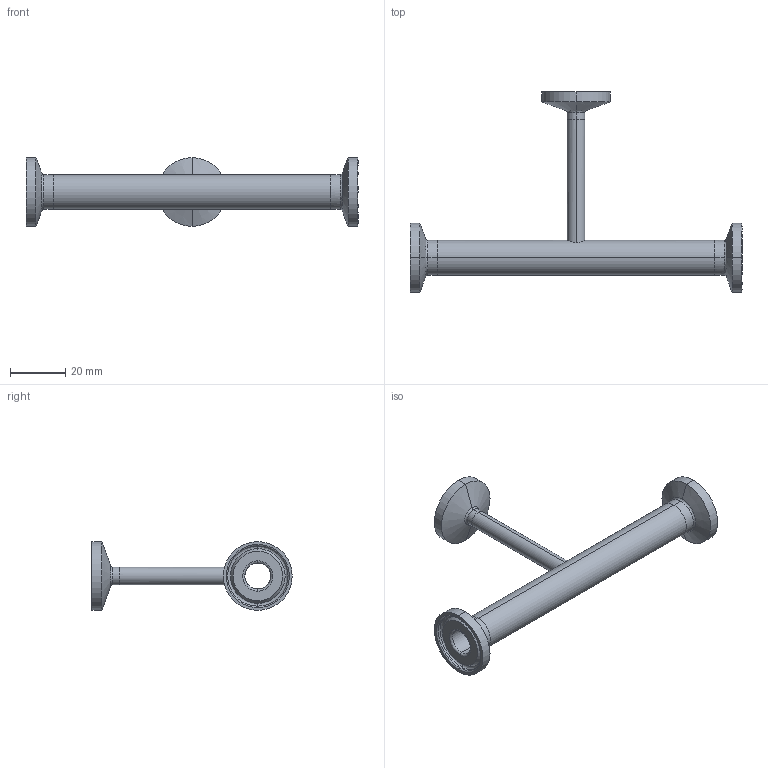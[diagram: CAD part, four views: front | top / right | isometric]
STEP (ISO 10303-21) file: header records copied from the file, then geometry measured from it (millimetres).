
FILE_DESCRIPTION (( 'STEP AP214' ), '1' );
FILE_NAME ('TEG7R6L.5x.25-...STEP', '2016-05-24T04:50:06', ( 'eran' ), ( '' ), 'SwSTEP 2.0', 'SolidWorks 2016', '' );
FILE_SCHEMA (( 'AUTOMOTIVE_DESIGN' ));
Length unit declared in the file: millimetre
Products named in the file (1): TEG7R6L.5x.25-..
Bounding box: 120.6 x 72.8 x 24.99 mm (x, y, z)
Volume: 12224.3 mm3; surface area: 13656.5 mm2
Topology: 4 solids, 4 shells, 80 faces, 176 edges, 108 vertices
Faces by surface type: cylinder 32, bspline 24, plane 12, cone 12
Entity records: 2685 total; most frequent: CARTESIAN_POINT 877, DIRECTION 390, ORIENTED_EDGE 352, EDGE_CURVE 176, AXIS2_PLACEMENT_3D 173, CIRCLE 116, VERTEX_POINT 108, EDGE_LOOP 94
